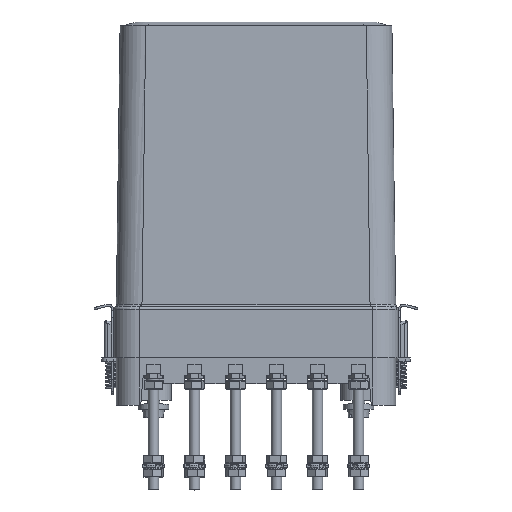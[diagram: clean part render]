
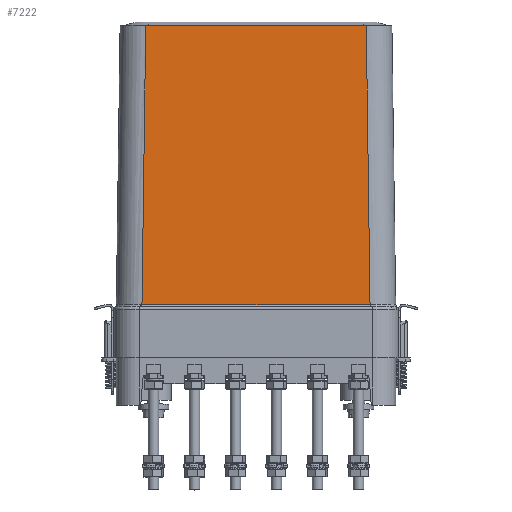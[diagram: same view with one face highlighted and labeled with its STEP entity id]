
A CAD part, top view. The second image highlights one B-rep face of the part: STEP entity #7222.
In plain terms, the highlighted planar face has unit normal (0, 0.013, 1).
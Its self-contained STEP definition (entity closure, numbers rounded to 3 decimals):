
#7222=ADVANCED_FACE('',(#34507),#34509,.T.);
#34507=FACE_BOUND('',#34508,.T.);
#34508=EDGE_LOOP('',(#48786,#48787,#48788,#48789));
#34509=PLANE('',#34510);
#34510=AXIS2_PLACEMENT_3D('',#34511,#34512,#34513);
#34511=CARTESIAN_POINT('',(43.,149.5,30.5));
#34512=DIRECTION('',(0.,0.014,1.));
#34513=DIRECTION('',(-1.,0.,0.));
#48786=ORIENTED_EDGE('',*,*,#56766,.T.);
#48787=ORIENTED_EDGE('',*,*,#57068,.F.);
#48788=ORIENTED_EDGE('',*,*,#57058,.T.);
#48789=ORIENTED_EDGE('',*,*,#57069,.T.);
#56766=EDGE_CURVE('',#63469,#63467,#63470,.T.);
#57058=EDGE_CURVE('',#63885,#63883,#63886,.T.);
#57068=EDGE_CURVE('',#63885,#63467,#63904,.T.);
#57069=EDGE_CURVE('',#63883,#63469,#63905,.T.);
#63467=VERTEX_POINT('',#78594);
#63469=VERTEX_POINT('',#78600);
#63470=LINE('',#78601,#78602);
#63883=VERTEX_POINT('',#80487);
#63885=VERTEX_POINT('',#80551);
#63886=LINE('',#80552,#80553);
#63904=LINE('',#80654,#80655);
#63905=LINE('',#80657,#80658);
#78594=CARTESIAN_POINT('',(44.49,39.224,31.99));
#78600=CARTESIAN_POINT('',(-44.49,39.224,31.99));
#78601=CARTESIAN_POINT('',(-44.49,39.224,31.99));
#78602=VECTOR('',#78603,1.);
#78603=DIRECTION('',(1.,0.,0.));
#80487=CARTESIAN_POINT('',(-43.02,148.,30.52));
#80551=CARTESIAN_POINT('',(43.02,148.,30.52));
#80552=CARTESIAN_POINT('',(43.02,148.,30.52));
#80553=VECTOR('',#80554,1.);
#80554=DIRECTION('',(-1.,0.,0.));
#80654=CARTESIAN_POINT('',(43.02,148.,30.52));
#80655=VECTOR('',#80656,1.);
#80656=DIRECTION('',(0.014,-1.,0.014));
#80657=CARTESIAN_POINT('',(-43.02,148.,30.52));
#80658=VECTOR('',#80659,1.);
#80659=DIRECTION('',(-0.014,-1.,0.014));
